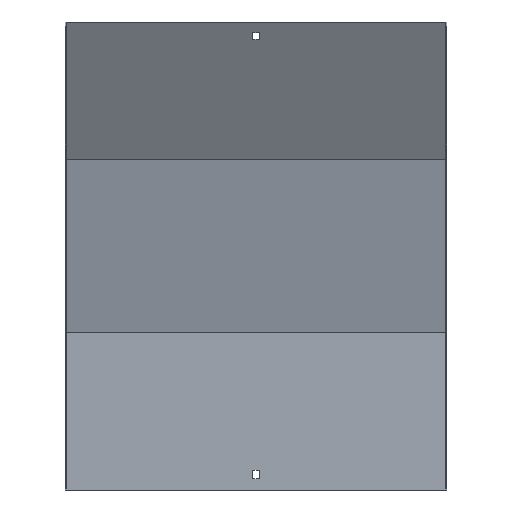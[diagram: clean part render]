
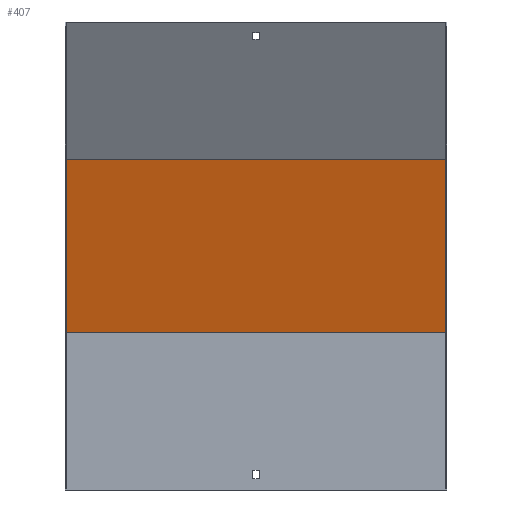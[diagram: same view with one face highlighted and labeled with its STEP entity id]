
A CAD part, front view. The second image highlights one B-rep face of the part: STEP entity #407.
In plain terms, the highlighted planar face has unit normal (0, -0.966, -0.259).
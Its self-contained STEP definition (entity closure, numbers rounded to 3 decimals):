
#47 = FACE_OUTER_BOUND ( 'NONE', #197, .T. ) ;
#114 = CARTESIAN_POINT ( 'NONE',  ( -200., 18.5, 166.436 ) ) ;
#128 = AXIS2_PLACEMENT_3D ( 'NONE', #175, #722, #703 ) ;
#157 = DIRECTION ( 'NONE',  ( 0., -0.259, 0.966 ) ) ;
#166 = CARTESIAN_POINT ( 'NONE',  ( 201.5, 18.5, 166.436 ) ) ;
#175 = CARTESIAN_POINT ( 'NONE',  ( 201.5, 17.87, 168.788 ) ) ;
#197 = EDGE_LOOP ( 'NONE', ( #693, #605, #838, #678 ) ) ;
#228 = LINE ( 'NONE', #622, #705 ) ;
#247 = EDGE_CURVE ( 'NONE', #261, #280, #442, .T. ) ;
#261 = VERTEX_POINT ( 'NONE', #630 ) ;
#280 = VERTEX_POINT ( 'NONE', #114 ) ;
#297 = LINE ( 'NONE', #753, #517 ) ;
#310 = DIRECTION ( 'NONE',  ( -1., 0., 0. ) ) ;
#352 = EDGE_CURVE ( 'NONE', #747, #488, #228, .T. ) ;
#377 = VECTOR ( 'NONE', #692, 1000. ) ;
#407 = ADVANCED_FACE ( 'NONE', ( #47 ), #730, .T. ) ;
#442 = LINE ( 'NONE', #166, #377 ) ;
#454 = DIRECTION ( 'NONE',  ( 0., -0.259, 0.966 ) ) ;
#460 = LINE ( 'NONE', #521, #533 ) ;
#488 = VERTEX_POINT ( 'NONE', #584 ) ;
#517 = VECTOR ( 'NONE', #157, 1000. ) ;
#521 = CARTESIAN_POINT ( 'NONE',  ( -200., 58.87, 15.774 ) ) ;
#533 = VECTOR ( 'NONE', #454, 1000. ) ;
#545 = EDGE_CURVE ( 'NONE', #261, #747, #297, .T. ) ;
#584 = CARTESIAN_POINT ( 'NONE',  ( -200., -30.383, 348.871 ) ) ;
#605 = ORIENTED_EDGE ( 'NONE', *, *, #247, .F. ) ;
#622 = CARTESIAN_POINT ( 'NONE',  ( 201.5, -30.383, 348.871 ) ) ;
#630 = CARTESIAN_POINT ( 'NONE',  ( 200., 18.5, 166.436 ) ) ;
#678 = ORIENTED_EDGE ( 'NONE', *, *, #352, .T. ) ;
#692 = DIRECTION ( 'NONE',  ( -1., 0., 0. ) ) ;
#693 = ORIENTED_EDGE ( 'NONE', *, *, #741, .F. ) ;
#703 = DIRECTION ( 'NONE',  ( 0., 0.259, -0.966 ) ) ;
#705 = VECTOR ( 'NONE', #310, 1000. ) ;
#722 = DIRECTION ( 'NONE',  ( 0., -0.966, -0.259 ) ) ;
#730 = PLANE ( 'NONE',  #128 ) ;
#741 = EDGE_CURVE ( 'NONE', #280, #488, #460, .T. ) ;
#747 = VERTEX_POINT ( 'NONE', #781 ) ;
#753 = CARTESIAN_POINT ( 'NONE',  ( 200., 58.87, 15.774 ) ) ;
#781 = CARTESIAN_POINT ( 'NONE',  ( 200., -30.383, 348.871 ) ) ;
#838 = ORIENTED_EDGE ( 'NONE', *, *, #545, .T. ) ;
